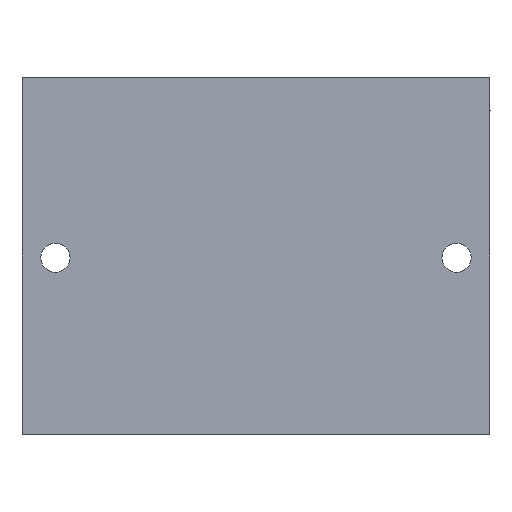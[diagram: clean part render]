
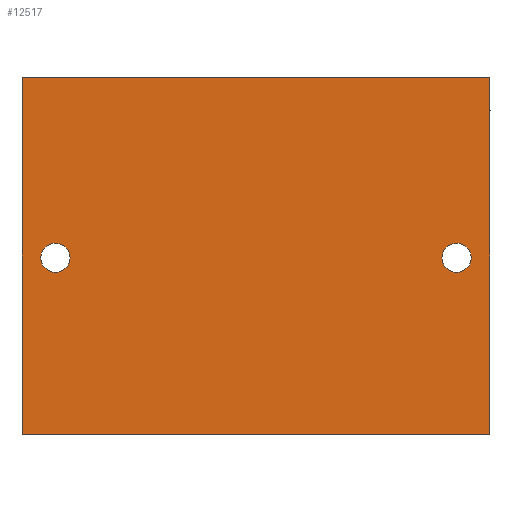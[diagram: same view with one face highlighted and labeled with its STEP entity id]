
A CAD part, front view. The second image highlights one B-rep face of the part: STEP entity #12517.
In plain terms, the highlighted planar face has unit normal (0, -1, 0).
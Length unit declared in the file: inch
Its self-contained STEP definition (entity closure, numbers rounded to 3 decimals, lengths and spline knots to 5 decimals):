
#93 = DIRECTION ( 'NONE',  ( 0., 0., 1. ) ) ;
#830 = FACE_BOUND ( 'NONE', #5551, .T. ) ;
#1179 = CIRCLE ( 'NONE', #5647, 0.164 ) ;
#1321 = LINE ( 'NONE', #7696, #9057 ) ;
#1557 = CARTESIAN_POINT ( 'NONE',  ( 5.25, 0., -4. ) ) ;
#1623 = DIRECTION ( 'NONE',  ( 0., 0., -1. ) ) ;
#1748 = EDGE_CURVE ( 'NONE', #2432, #11852, #2866, .T. ) ;
#1917 = DIRECTION ( 'NONE',  ( 0., 0., 1. ) ) ;
#2099 = LINE ( 'NONE', #1557, #12167 ) ;
#2432 = VERTEX_POINT ( 'NONE', #8991 ) ;
#2569 = DIRECTION ( 'NONE',  ( 0., 1., 0. ) ) ;
#2587 = VERTEX_POINT ( 'NONE', #7799 ) ;
#2762 = CARTESIAN_POINT ( 'NONE',  ( 5.25, 0., 0. ) ) ;
#2866 = LINE ( 'NONE', #6795, #10588 ) ;
#2953 = AXIS2_PLACEMENT_3D ( 'NONE', #12147, #6145, #93 ) ;
#3090 = DIRECTION ( 'NONE',  ( 0., 0., -1. ) ) ;
#3852 = CARTESIAN_POINT ( 'NONE',  ( 4.875, 0., -2.184 ) ) ;
#4816 = CIRCLE ( 'NONE', #4877, 0.164 ) ;
#4877 = AXIS2_PLACEMENT_3D ( 'NONE', #8626, #2569, #9623 ) ;
#4977 = CIRCLE ( 'NONE', #9278, 0.164 ) ;
#5084 = DIRECTION ( 'NONE',  ( -1., 0., 0. ) ) ;
#5098 = DIRECTION ( 'NONE',  ( 0., 0., 1. ) ) ;
#5148 = CARTESIAN_POINT ( 'NONE',  ( 0.375, 0., -2.02 ) ) ;
#5185 = DIRECTION ( 'NONE',  ( 0., 1., 0. ) ) ;
#5199 = EDGE_CURVE ( 'NONE', #8900, #6637, #1179, .T. ) ;
#5551 = EDGE_LOOP ( 'NONE', ( #11010, #11037 ) ) ;
#5647 = AXIS2_PLACEMENT_3D ( 'NONE', #6995, #6986, #6975 ) ;
#5815 = AXIS2_PLACEMENT_3D ( 'NONE', #6969, #7949, #1917 ) ;
#6145 = DIRECTION ( 'NONE',  ( 0., 1., 0. ) ) ;
#6343 = EDGE_LOOP ( 'NONE', ( #10542, #10873 ) ) ;
#6387 = EDGE_CURVE ( 'NONE', #6637, #8900, #4977, .T. ) ;
#6637 = VERTEX_POINT ( 'NONE', #12736 ) ;
#6795 = CARTESIAN_POINT ( 'NONE',  ( 5.25, 0., 0. ) ) ;
#6969 = CARTESIAN_POINT ( 'NONE',  ( 5.25, 0., 0. ) ) ;
#6975 = DIRECTION ( 'NONE',  ( 0., 0., 1. ) ) ;
#6986 = DIRECTION ( 'NONE',  ( 0., 1., 0. ) ) ;
#6995 = CARTESIAN_POINT ( 'NONE',  ( 0.375, 0., -2.02 ) ) ;
#7003 = CARTESIAN_POINT ( 'NONE',  ( 0., 0., -4. ) ) ;
#7545 = CARTESIAN_POINT ( 'NONE',  ( 5.25, 0., -4. ) ) ;
#7696 = CARTESIAN_POINT ( 'NONE',  ( 0., 0., 0. ) ) ;
#7799 = CARTESIAN_POINT ( 'NONE',  ( 4.875, 0., -1.856 ) ) ;
#7949 = DIRECTION ( 'NONE',  ( 0., 1., 0. ) ) ;
#8600 = CIRCLE ( 'NONE', #2953, 0.164 ) ;
#8626 = CARTESIAN_POINT ( 'NONE',  ( 4.875, 0., -2.02 ) ) ;
#8748 = EDGE_CURVE ( 'NONE', #2432, #9886, #10127, .T. ) ;
#8873 = PLANE ( 'NONE',  #5815 ) ;
#8900 = VERTEX_POINT ( 'NONE', #10948 ) ;
#8991 = CARTESIAN_POINT ( 'NONE',  ( 5.25, 0., 0. ) ) ;
#9057 = VECTOR ( 'NONE', #1623, 39.37008 ) ;
#9278 = AXIS2_PLACEMENT_3D ( 'NONE', #5148, #5185, #5098 ) ;
#9623 = DIRECTION ( 'NONE',  ( 0., 0., 1. ) ) ;
#9825 = VECTOR ( 'NONE', #3090, 39.37008 ) ;
#9886 = VERTEX_POINT ( 'NONE', #7545 ) ;
#10127 = LINE ( 'NONE', #2762, #9825 ) ;
#10249 = CARTESIAN_POINT ( 'NONE',  ( 0., 0., 0. ) ) ;
#10542 = ORIENTED_EDGE ( 'NONE', *, *, #6387, .T. ) ;
#10584 = EDGE_LOOP ( 'NONE', ( #11352, #11644, #11822, #11971 ) ) ;
#10588 = VECTOR ( 'NONE', #5084, 39.37008 ) ;
#10873 = ORIENTED_EDGE ( 'NONE', *, *, #5199, .T. ) ;
#10948 = CARTESIAN_POINT ( 'NONE',  ( 0.375, 0., -2.184 ) ) ;
#11010 = ORIENTED_EDGE ( 'NONE', *, *, #12424, .T. ) ;
#11037 = ORIENTED_EDGE ( 'NONE', *, *, #11523, .T. ) ;
#11258 = FACE_OUTER_BOUND ( 'NONE', #10584, .T. ) ;
#11352 = ORIENTED_EDGE ( 'NONE', *, *, #11699, .T. ) ;
#11391 = VERTEX_POINT ( 'NONE', #7003 ) ;
#11523 = EDGE_CURVE ( 'NONE', #11805, #2587, #8600, .T. ) ;
#11641 = DIRECTION ( 'NONE',  ( -1., 0., 0. ) ) ;
#11644 = ORIENTED_EDGE ( 'NONE', *, *, #12433, .F. ) ;
#11699 = EDGE_CURVE ( 'NONE', #11852, #11391, #1321, .T. ) ;
#11805 = VERTEX_POINT ( 'NONE', #3852 ) ;
#11822 = ORIENTED_EDGE ( 'NONE', *, *, #8748, .F. ) ;
#11852 = VERTEX_POINT ( 'NONE', #10249 ) ;
#11884 = FACE_BOUND ( 'NONE', #6343, .T. ) ;
#11971 = ORIENTED_EDGE ( 'NONE', *, *, #1748, .T. ) ;
#12147 = CARTESIAN_POINT ( 'NONE',  ( 4.875, 0., -2.02 ) ) ;
#12167 = VECTOR ( 'NONE', #11641, 39.37008 ) ;
#12424 = EDGE_CURVE ( 'NONE', #2587, #11805, #4816, .T. ) ;
#12433 = EDGE_CURVE ( 'NONE', #9886, #11391, #2099, .T. ) ;
#12517 = ADVANCED_FACE ( 'NONE', ( #11884, #830, #11258 ), #8873, .F. ) ;
#12736 = CARTESIAN_POINT ( 'NONE',  ( 0.375, 0., -1.856 ) ) ;
